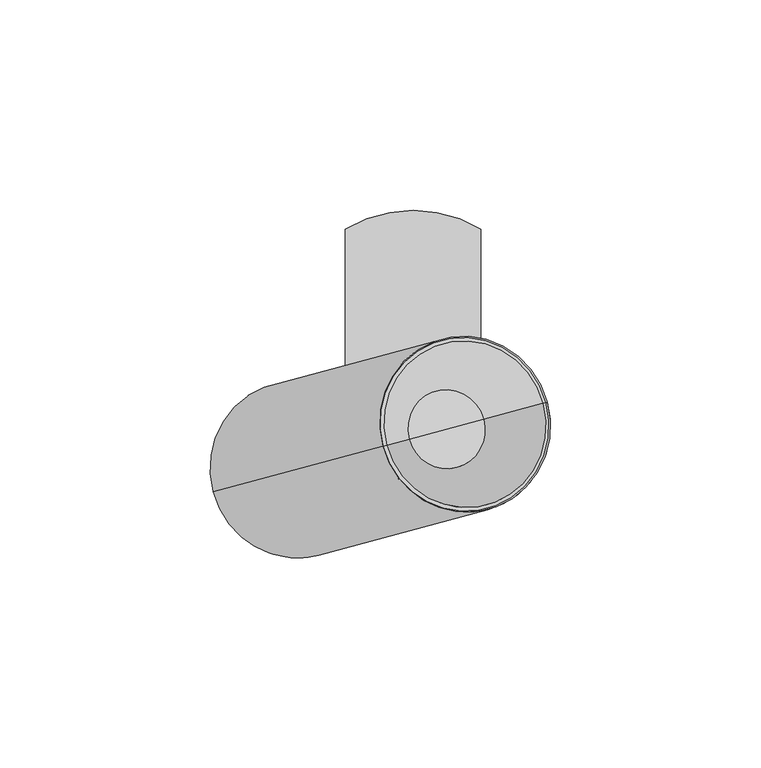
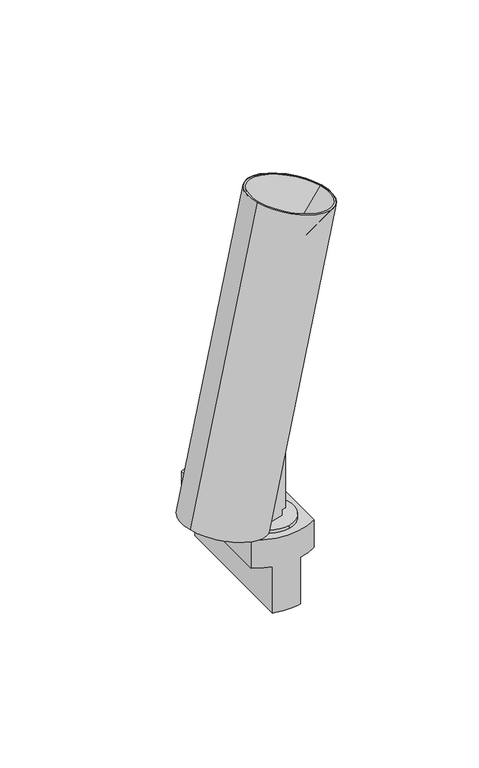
"""IFC4 building model written with IfcOpenShell, lengths in millimetres: light fixture geometry, PIPES T XS : 630lm 7,8W 840 38°."""

from ifc_helpers import new_model, si_unit, point, frame, frame_2d, origin, origin_2d, place, context, project, spatial, polyline, circle_curve, trimmed, segment, composite_curve, outline, extrude, source, transform, mapped, element, save
from ifc_brep_helpers import plane_surface, cylinder_surface, revolved_surface, advanced_brep


def light_fixture_4018adf6(model_context):
    return source(origin(), model_context, "Body", "SolidModel", [
        extrude(outline(composite_curve([segment(polyline([(39.7303383, 0.0), (39.7303383, -8.0), (36.7303383, -8.0), (36.7303383, -10.0), (-21.31827, -10.0), (-21.31827, -2.0)]), True, "CONTINUOUS"), segment(trimmed(circle_curve(frame_2d((-15.691322, -2.0)), 5.626948), [point((-21.31827, -2.0))], [point((-15.691322, 3.626948))], False, "CARTESIAN"), True, "CONTINUOUS"), segment(polyline([(-15.691322, 3.626948), (-9.8735653, 3.626948)]), True, "CONTINUOUS"), segment(trimmed(circle_curve(frame_2d((-17.7182036, -2.2388679)), 9.7952104), [point((-9.8735653, 3.626948))], [point((-8.1822916, 0.0))], False, "CARTESIAN"), True, "CONTINUOUS"), segment(polyline([(-8.1822916, 0.0), (39.7303383, 0.0)]), True, "CONTINUOUS")], self_intersect=False)), frame((-3.5355339, -6.1237244, 56.5303383), z_axis=(-0.25881904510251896, 0.9659258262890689, 0.0), x_axis=(0.0, 0.0, -1.0)), (0.0, 0.0, 1.0), 10.0),
        extrude(outline(composite_curve([segment(trimmed(circle_curve(origin_2d(), 12.5), [point((-3.2352381, 12.0740728))], [point((3.2352381, -12.0740728))], False, "CARTESIAN"), True, "CONTINUOUS"), segment(trimmed(circle_curve(origin_2d(), 12.5), [point((3.2352381, -12.0740728))], [point((-3.2352381, 12.0740728))], False, "CARTESIAN"), True, "CONTINUOUS")], self_intersect=False)), frame((0.0, 0.0, 15.0), z_axis=(0.0, 0.0, 1.0), x_axis=(1.0, 0.0, 0.0)), (0.0, 0.0, 1.0), 1.8),
        advanced_brep(
        [(-7.1153658, -15.2862846, -25.0), (-7.1153658, 53.3498174, -25.0), (7.1153658, 53.3498174, -25.0), (7.1153658, -15.2862846, -25.0), (-16.1153658, 49.7317664, 15.0), (-16.1153658, -11.6682336, 15.0), (16.1153658, -11.6682336, 15.0), (16.1153658, 49.7317664, 15.0), (-16.1153658, 49.7317664, 0.0), (-16.1153658, -11.6682336, 0.0), (-7.1153658, -15.2862846, 0.0), (7.1153658, -15.2862846, 0.0), (16.1153658, -11.6682336, 0.0), (16.1153658, 49.7317664, 0.0), (7.1153658, 53.3498174, 0.0), (-7.1153658, 53.3498174, 0.0)],
        [
            (0, 1),
            (1, 2, circle_curve(frame((0.0, 22.6472542, -25.0), z_axis=(0.0, 0.0, -1.0), x_axis=(1.0, 0.0, 0.0)), 31.5162786)),
            (2, 3),
            (3, 0, circle_curve(frame((0.0, 15.4162786, -25.0), z_axis=(0.0, 0.0, -1.0), x_axis=(1.0, 0.0, 0.0)), 31.5162786)),
            (4, 5),
            (5, 6, circle_curve(frame((0.0, 15.4162786, 15.0), z_axis=(0.0, 0.0, 1.0), x_axis=(1.0, 0.0, 0.0)), 31.5162786)),
            (6, 7),
            (7, 4, circle_curve(frame((0.0, 22.6472542, 15.0), z_axis=(0.0, 0.0, 1.0), x_axis=(1.0, 0.0, 0.0)), 31.5162786)),
            (4, 8),
            (8, 9),
            (9, 5),
            (9, 10, circle_curve(frame((0.0, 15.4162786, 0.0), z_axis=(0.0, 0.0, 1.0), x_axis=(1.0, 0.0, 0.0)), 31.5162786)),
            (10, 0),
            (3, 11),
            (11, 12, circle_curve(frame((0.0, 15.4162786, 0.0), z_axis=(0.0, 0.0, 1.0), x_axis=(1.0, 0.0, 0.0)), 31.5162786)),
            (12, 6),
            (12, 13),
            (13, 7),
            (13, 14, circle_curve(frame((0.0, 22.6472542, 0.0), z_axis=(0.0, 0.0, 1.0), x_axis=(1.0, 0.0, 0.0)), 31.5162786)),
            (14, 2),
            (1, 15),
            (15, 8, circle_curve(frame((0.0, 22.6472542, 0.0), z_axis=(0.0, 0.0, 1.0), x_axis=(1.0, 0.0, 0.0)), 31.5162786)),
            (15, 10),
            (11, 14),
        ],
        [
            plane_surface(frame((-16.1153658, -11.6883244, -25.0), z_axis=(0.0, 0.0, -1.0), x_axis=(0.0, 1.0, 0.0))),
            plane_surface(frame((-16.1153658, -11.6883244, 15.0), z_axis=(0.0, 0.0, 1.0), x_axis=(0.0, -1.0, 0.0))),
            plane_surface(frame((-16.1153658, 49.7317664, 15.0), z_axis=(-1.0, 0.0, 0.0), x_axis=(0.0, 0.0, -1.0))),
            cylinder_surface(frame((0.0, 15.4162786, -25.0), z_axis=(0.0, 0.0, 1.0), x_axis=(1.0, 0.0, 0.0)), 31.5162786),
            plane_surface(frame((16.1153658, -11.6682336, 15.0), z_axis=(1.0, 0.0, 0.0), x_axis=(0.0, 0.0, -1.0))),
            cylinder_surface(frame((0.0, 22.6472542, -25.0), z_axis=(0.0, 0.0, 1.0), x_axis=(1.0, 0.0, 0.0)), 31.5162786),
            plane_surface(frame((-7.1153658, 58.6979838, 0.0), z_axis=(0.0, 0.0, -1.0), x_axis=(-1.0, 0.0, 0.0))),
            plane_surface(frame((-7.1153658, -21.3020162, 0.0), z_axis=(-1.0, 0.0, 0.0), x_axis=(0.0, 0.0, -1.0))),
            plane_surface(frame((7.1153658, -11.6883244, 0.0), z_axis=(0.0, 0.0, -1.0), x_axis=(0.0, -1.0, 0.0))),
            plane_surface(frame((7.1153658, 58.6979838, 0.0), z_axis=(1.0, 0.0, 0.0), x_axis=(0.0, 0.0, -1.0))),
        ],
        [
            (0, [[1, 2, 3, 4]]),
            (1, [[5, 6, 7, 8]]),
            (2, [[-5, 9, 10, 11]]),
            (3, [[-6, -11, 12, 13, -4, 14, 15, 16]]),
            (4, [[-7, -16, 17, 18]]),
            (5, [[-8, -18, 19, 20, -2, 21, 22, -9]]),
            (6, [[23, -12, -10, -22]]),
            (7, [[-23, -21, -1, -13]]),
            (8, [[24, -19, -17, -15]]),
            (9, [[-24, -14, -3, -20]]),
        ],
    ),
        advanced_brep(
        [(-4.7091587, 3.9145656, 79.1237244), (-17.4591587, 0.4982134, 29.8615072), (-10.6198931, 2.3307891, 27.9642853), (-12.1198931, 1.9288653, 22.1687303), (-10.1924986, 2.4453091, 21.6340683), (4.0575014, 6.2635851, 76.6918404), (-2.1209683, -5.7446926, 79.1237244), (6.6456919, -3.3956731, 76.6918404), (-7.6043081, -7.2139491, 21.6340683), (-9.5317027, -7.7303929, 22.1687303), (-8.0317027, -7.3284691, 27.9642853), (-14.8709683, -9.1610448, 29.8615072), (-16.1650635, -4.3314157, 29.8615072), (5.9150635, 1.5849365, 76.5355339), (31.9150635, 8.5516155, 176.9918198), (-7.27147, -1.9483845, 187.8622197), (-47.52147, -12.7333395, 32.3481617), (-45.6554446, -12.2333395, 31.8305236), (-44.1554446, -11.8314157, 37.6260786), (-26.4282032, -7.0814157, 32.7085167), (-1.6333302, -0.4376495, 167.1455825), (17.0269238, 4.5623505, 161.9692015), (7.6967968, 2.0623505, 164.557392)],
        [
            (0, 1),
            (1, 2),
            (2, 3),
            (3, 4),
            (4, 5),
            (5, 0),
            (6, 7),
            (7, 8),
            (8, 9),
            (9, 10),
            (10, 11),
            (11, 6),
            (0, 6),
            (11, 12),
            (12, 1),
            (5, 13, circle_curve(frame((-13.6782032, -3.6650635, 81.9707339), z_axis=(-0.24999999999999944, -0.06698729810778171, -0.9659258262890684), x_axis=(0.9330127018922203, 0.24999999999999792, -0.25881904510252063)), 21.0)),
            (13, 7, circle_curve(frame((-13.6782032, -3.6650635, 81.9707339), z_axis=(-0.24999999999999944, -0.06698729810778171, -0.9659258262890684), x_axis=(0.9330127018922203, 0.24999999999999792, -0.25881904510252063)), 21.0)),
            (14, 15, circle_curve(frame((12.3217968, 3.3016155, 182.4270198), z_axis=(-0.24999999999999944, -0.06698729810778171, -0.9659258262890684), x_axis=(0.9330127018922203, 0.24999999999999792, -0.25881904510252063)), 21.0)),
            (15, 16),
            (16, 8, circle_curve(frame((-27.9282032, -7.4833395, 26.9129618), z_axis=(0.24999999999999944, 0.06698729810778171, 0.9659258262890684), x_axis=(0.9330127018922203, 0.24999999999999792, -0.25881904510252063)), 21.0)),
            (13, 14),
            (15, 14, circle_curve(frame((12.3217968, 3.3016155, 182.4270198), z_axis=(-0.24999999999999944, -0.06698729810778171, -0.9659258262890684), x_axis=(0.9330127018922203, 0.24999999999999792, -0.25881904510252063)), 21.0)),
            (4, 16, circle_curve(frame((-27.9282032, -7.4833395, 26.9129618), z_axis=(0.24999999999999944, 0.06698729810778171, 0.9659258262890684), x_axis=(0.9330127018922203, 0.24999999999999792, -0.25881904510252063)), 21.0)),
            (16, 17),
            (17, 9, circle_curve(frame((-27.9282032, -7.4833395, 26.9129618), z_axis=(0.24999999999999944, 0.06698729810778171, 0.9659258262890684), x_axis=(0.9330127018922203, 0.24999999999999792, -0.25881904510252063)), 19.0)),
            (3, 17, circle_curve(frame((-27.9282032, -7.4833395, 26.9129618), z_axis=(0.24999999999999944, 0.06698729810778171, 0.9659258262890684), x_axis=(0.9330127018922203, 0.24999999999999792, -0.25881904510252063)), 19.0)),
            (17, 18),
            (18, 10, circle_curve(frame((-26.4282032, -7.0814157, 32.7085167), z_axis=(0.24999999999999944, 0.06698729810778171, 0.9659258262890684), x_axis=(0.9330127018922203, 0.24999999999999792, -0.25881904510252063)), 19.0)),
            (2, 18, circle_curve(frame((-26.4282032, -7.0814157, 32.7085167), z_axis=(0.24999999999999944, 0.06698729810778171, 0.9659258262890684), x_axis=(0.9330127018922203, 0.24999999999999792, -0.25881904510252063)), 19.0)),
            (18, 19),
            (19, 12),
            (20, 21, circle_curve(frame((7.6967968, 2.0623505, 164.557392), z_axis=(0.24999999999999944, 0.06698729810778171, 0.9659258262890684), x_axis=(0.9330127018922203, 0.24999999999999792, -0.25881904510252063)), 10.0)),
            (21, 22),
            (22, 20),
            (21, 20, circle_curve(frame((7.6967968, 2.0623505, 164.557392), z_axis=(0.24999999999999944, 0.06698729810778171, 0.9659258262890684), x_axis=(0.9330127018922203, 0.24999999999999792, -0.25881904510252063)), 10.0)),
            (14, 21),
            (20, 15),
        ],
        [
            plane_surface(frame((-4.7091587, 3.9145656, 79.1237244), z_axis=(0.258819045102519, -0.9659258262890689, 0.0), x_axis=(0.24999999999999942, 0.06698729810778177, 0.9659258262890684))),
            plane_surface(frame((-2.1209683, -5.7446926, 79.1237244), z_axis=(-0.258819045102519, 0.9659258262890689, 0.0), x_axis=(-0.24999999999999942, -0.06698729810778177, -0.9659258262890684))),
            plane_surface(frame((-2.1209683, -5.7446926, 79.1237244), z_axis=(0.93301270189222, 0.24999999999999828, -0.2588190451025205), x_axis=(-0.25881904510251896, 0.9659258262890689, 0.0))),
            plane_surface(frame((16.5392858, -0.7446926, 73.9473435), z_axis=(-0.24999999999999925, -0.06698729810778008, -0.9659258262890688), x_axis=(-0.25881904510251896, 0.9659258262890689, 0.0))),
            cylinder_surface(frame((-30.0412985, -8.0495417, 18.7485887), z_axis=(-0.2499999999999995, -0.06698729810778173, -0.9659258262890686), x_axis=(0.9330127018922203, 0.24999999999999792, -0.25881904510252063)), 21.0),
            plane_surface(frame((-27.9282032, -7.4833395, 26.9129618), z_axis=(-0.24999999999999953, -0.0669872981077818, -0.9659258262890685), x_axis=(0.9330127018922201, 0.24999999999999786, -0.2588190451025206))),
            revolved_surface(polyline([(-10.20096192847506, -2.7333395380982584, 21.99539988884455), (-8.700961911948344, -2.3314157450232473, 27.790954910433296)]), (-30.0412985, -8.0495417, 18.7485887), (-0.2499999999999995, -0.06698729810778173, -0.9659258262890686)),
            revolved_surface(polyline([(-10.20096192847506, -2.7333395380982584, 21.99539988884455), (-8.700961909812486, -2.3314157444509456, 27.79095491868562)]), (-30.0412985, -8.0495417, 18.7485887), (-0.2499999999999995, -0.06698729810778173, -0.9659258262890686)),
            plane_surface(frame((-26.4282032, -7.0814157, 32.7085167), z_axis=(-0.24999999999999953, -0.0669872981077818, -0.9659258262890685), x_axis=(0.9330127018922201, 0.24999999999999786, -0.2588190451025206))),
            plane_surface(frame((7.6967968, 2.0623505, 164.557392), z_axis=(0.24999999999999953, 0.0669872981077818, 0.9659258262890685), x_axis=(0.9330127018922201, 0.24999999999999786, -0.2588190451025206))),
            revolved_surface(polyline([(17.0269238, 4.5623505, 161.9692015), (31.9150635, 8.5516155, 176.9918198)]), (-30.0412985, -8.0495417, 18.7485887), (-0.2499999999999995, -0.06698729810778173, -0.9659258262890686)),
        ],
        [
            (0, [[1, 2, 3, 4, 5, 6]]),
            (1, [[7, 8, 9, 10, 11, 12]]),
            (2, [[13, -12, 14, 15, -1]]),
            (3, [[-13, -6, 16, 17, -7]]),
            (4, [[18, 19, 20, -8, -17, 21]]),
            (4, [[-19, 22, -21, -16, -5, 23]]),
            (5, [[24, 25, -9, -20]]),
            (5, [[-24, -23, -4, 26]]),
            (6, [[27, 28, -10, -25]]),
            (7, [[-27, -26, -3, 29]]),
            (8, [[30, 31, -14, -11, -28]]),
            (8, [[-30, -29, -2, -15, -31]]),
            (9, [[32, 33, 34]]),
            (9, [[-33, 35, -34]]),
            (10, [[-18, 36, -32, 37]]),
            (10, [[-22, -37, -35, -36]]),
        ],
    ),
        advanced_brep(
        [(-18.4591587, 0.2302642, 25.9978039), (-18.9591587, 0.0962896, 24.0659523), (-14.0688418, 1.4066461, 22.7093714), (-13.5688418, 1.5406207, 24.6412231), (-16.3709683, -9.5629686, 24.0659523), (-15.8709683, -9.428994, 25.9978039), (-10.9806513, -8.1186376, 24.6412231), (-11.4806513, -8.2526122, 22.7093714), (-17.1650635, -4.5993649, 25.9978039), (-17.6650635, -4.7333395, 24.0659523), (-27.4282032, -7.3493649, 28.8448134), (-43.2834884, -11.5977758, 33.243092), (-43.7834884, -11.7317503, 31.3112403), (-27.9282032, -7.4833395, 26.9129618)],
        [
            (0, 1),
            (1, 2),
            (2, 3),
            (3, 0),
            (4, 5),
            (5, 6),
            (6, 7),
            (7, 4),
            (0, 8),
            (8, 5),
            (4, 9),
            (9, 1),
            (10, 11),
            (11, 6, circle_curve(frame((-27.4282032, -7.3493649, 28.8448134), z_axis=(0.24999999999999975, 0.0669872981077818, 0.9659258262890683), x_axis=(0.9330127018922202, 0.2499999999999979, -0.25881904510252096)), 16.9936434)),
            (8, 10),
            (3, 11, circle_curve(frame((-27.4282032, -7.3493649, 28.8448134), z_axis=(0.24999999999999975, 0.0669872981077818, 0.9659258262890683), x_axis=(0.9330127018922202, 0.2499999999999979, -0.25881904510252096)), 16.9936434)),
            (11, 12),
            (12, 7, circle_curve(frame((-27.9282032, -7.4833395, 26.9129618), z_axis=(0.24999999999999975, 0.0669872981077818, 0.9659258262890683), x_axis=(0.9330127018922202, 0.2499999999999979, -0.25881904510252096)), 16.9936434)),
            (2, 12, circle_curve(frame((-27.9282032, -7.4833395, 26.9129618), z_axis=(0.24999999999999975, 0.0669872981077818, 0.9659258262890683), x_axis=(0.9330127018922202, 0.2499999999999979, -0.25881904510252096)), 16.9936434)),
            (12, 13),
            (13, 9),
        ],
        [
            plane_surface(frame((-4.7091587, 3.9145656, 79.1237244), z_axis=(0.258819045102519, -0.9659258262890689, 0.0), x_axis=(0.24999999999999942, 0.06698729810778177, 0.9659258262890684))),
            plane_surface(frame((-2.1209683, -5.7446926, 79.1237244), z_axis=(-0.258819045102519, 0.9659258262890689, 0.0), x_axis=(-0.24999999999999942, -0.06698729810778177, -0.9659258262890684))),
            plane_surface(frame((-2.1209683, -5.7446926, 79.1237244), z_axis=(0.93301270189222, 0.24999999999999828, -0.2588190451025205), x_axis=(-0.25881904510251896, 0.9659258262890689, 0.0))),
            plane_surface(frame((-27.4282032, -7.3493649, 28.8448134), z_axis=(0.24999999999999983, 0.06698729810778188, 0.9659258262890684), x_axis=(0.93301270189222, 0.24999999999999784, -0.2588190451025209))),
            cylinder_surface(frame((5.0837015, 1.3621737, 154.4611673), z_axis=(-0.2499999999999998, -0.06698729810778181, -0.9659258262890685), x_axis=(0.9330127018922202, 0.2499999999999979, -0.25881904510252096)), 16.9936434),
            plane_surface(frame((-27.9282032, -7.4833395, 26.9129618), z_axis=(-0.24999999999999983, -0.06698729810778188, -0.9659258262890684), x_axis=(0.93301270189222, 0.24999999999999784, -0.2588190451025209))),
        ],
        [
            (0, [[1, 2, 3, 4]]),
            (1, [[5, 6, 7, 8]]),
            (2, [[-1, 9, 10, -5, 11, 12]]),
            (3, [[13, 14, -6, -10, 15]]),
            (3, [[-13, -15, -9, -4, 16]]),
            (4, [[17, 18, -7, -14]]),
            (4, [[-17, -16, -3, 19]]),
            (5, [[20, 21, -11, -8, -18]]),
            (5, [[-20, -19, -2, -12, -21]]),
        ],
    ),
        advanced_brep(
        [(-0.8526103, -0.2284562, 167.9642858), (16.7462038, 4.4871318, 163.0823499), (7.9467968, 2.1293378, 165.5233178), (-6.1859857, -1.6575299, 187.5611049), (30.8295792, 8.2607609, 177.2929347), (-7.27147, -1.9483845, 187.8622197), (31.9150635, 8.5516155, 176.9918198), (-1.6333302, -0.4376495, 167.1455825), (17.0269238, 4.5623505, 161.9692015), (7.6967968, 2.0623505, 164.557392)],
        [
            (0, 1, circle_curve(frame((7.9467968, 2.1293378, 165.5233178), z_axis=(0.2499999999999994, 0.0669872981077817, 0.9659258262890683), x_axis=(0.9330127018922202, 0.2499999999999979, -0.2588190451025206)), 9.431176)),
            (1, 2),
            (2, 0),
            (1, 0, circle_curve(frame((7.9467968, 2.1293378, 165.5233178), z_axis=(0.2499999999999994, 0.0669872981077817, 0.9659258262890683), x_axis=(0.9330127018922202, 0.2499999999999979, -0.2588190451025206)), 9.431176)),
            (3, 4, circle_curve(frame((12.3217968, 3.3016155, 182.4270198), z_axis=(0.2499999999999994, 0.0669872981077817, 0.9659258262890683), x_axis=(0.9330127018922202, 0.2499999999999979, -0.2588190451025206)), 19.8365814)),
            (4, 1),
            (0, 3),
            (4, 3, circle_curve(frame((12.3217968, 3.3016155, 182.4270198), z_axis=(0.2499999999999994, 0.0669872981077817, 0.9659258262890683), x_axis=(0.9330127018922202, 0.2499999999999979, -0.2588190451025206)), 19.8365814)),
            (5, 6, circle_curve(frame((12.3217968, 3.3016155, 182.4270198), z_axis=(0.2499999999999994, 0.0669872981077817, 0.9659258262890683), x_axis=(0.9330127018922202, 0.2499999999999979, -0.2588190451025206)), 21.0)),
            (6, 4),
            (3, 5),
            (6, 5, circle_curve(frame((12.3217968, 3.3016155, 182.4270198), z_axis=(0.2499999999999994, 0.0669872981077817, 0.9659258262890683), x_axis=(0.9330127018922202, 0.2499999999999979, -0.2588190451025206)), 21.0)),
            (7, 8, circle_curve(frame((7.6967968, 2.0623505, 164.557392), z_axis=(0.2499999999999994, 0.0669872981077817, 0.9659258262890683), x_axis=(0.9330127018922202, 0.2499999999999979, -0.2588190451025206)), 10.0)),
            (8, 6),
            (5, 7),
            (8, 7, circle_curve(frame((7.6967968, 2.0623505, 164.557392), z_axis=(0.2499999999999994, 0.0669872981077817, 0.9659258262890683), x_axis=(0.9330127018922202, 0.2499999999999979, -0.2588190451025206)), 10.0)),
            (9, 8),
            (7, 9),
        ],
        [
            plane_surface(frame((7.9467968, 2.1293378, 165.5233178), z_axis=(0.24999999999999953, 0.0669872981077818, 0.9659258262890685), x_axis=(0.9330127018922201, 0.24999999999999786, -0.2588190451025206))),
            revolved_surface(polyline([(16.7462038, 4.4871318, 163.0823499), (30.8295792, 8.2607609, 177.2929347)]), (-35.0412985, -9.3892876, -0.5699278), (-0.24999999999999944, -0.06698729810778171, -0.9659258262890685)),
            plane_surface(frame((12.3217968, 3.3016155, 182.4270198), z_axis=(0.24999999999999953, 0.0669872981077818, 0.9659258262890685), x_axis=(0.9330127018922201, 0.24999999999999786, -0.2588190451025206))),
            revolved_surface(polyline([(31.9150635, 8.5516155, 176.9918198), (17.0269238, 4.5623505, 161.9692015)]), (-35.0412985, -9.3892876, -0.5699278), (-0.24999999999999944, -0.06698729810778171, -0.9659258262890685)),
            plane_surface(frame((7.6967968, 2.0623505, 164.557392), z_axis=(-0.24999999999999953, -0.0669872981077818, -0.9659258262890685), x_axis=(0.9330127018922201, 0.24999999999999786, -0.2588190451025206))),
        ],
        [
            (0, [[1, 2, 3]]),
            (0, [[4, -3, -2]]),
            (1, [[5, 6, -1, 7]]),
            (1, [[8, -7, -4, -6]]),
            (2, [[9, 10, -5, 11]]),
            (2, [[12, -11, -8, -10]]),
            (3, [[13, 14, -9, 15]]),
            (3, [[16, -15, -12, -14]]),
            (4, [[17, -13, 18]]),
            (4, [[-18, -16, -17]]),
        ],
    ),
    ])


if __name__ == "__main__":
    model = new_model("IFC4")
    model_context = context("Model", 3, world=origin())
    ifc_project = project(units=[si_unit("LENGTHUNIT", "METRE", prefix="MILLI")], contexts=[model_context])
    site = spatial("IfcSite", under=ifc_project)
    building = spatial("IfcBuilding", under=site)
    placement = place(None, origin())
    light_fixture_shape = light_fixture_4018adf6(model_context)
    element("IfcLightFixture", 1, ObjectType="PIPES T XS : 630lm 7,8W 840 38°", at=placement, inside=building, context=model_context, shape_type="MappedRepresentation", body=[
        mapped(light_fixture_shape, transform((0.0, 0.0, 0.0), x_axis=(1.0, 0.0, 0.0), y_axis=(0.0, 1.0, 0.0), z_axis=(0.0, 0.0, 1.0))),
    ])
    save(model, "model.ifc")
